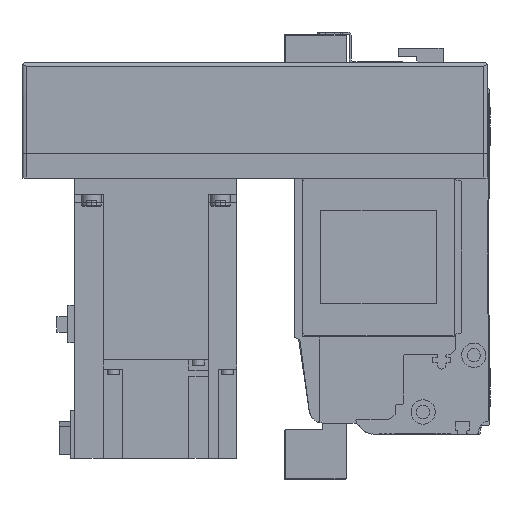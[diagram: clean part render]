
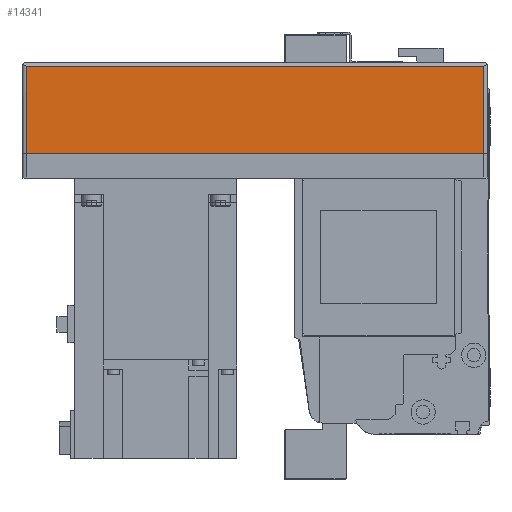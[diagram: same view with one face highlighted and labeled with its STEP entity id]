
A CAD part, left-side view. The second image highlights one B-rep face of the part: STEP entity #14341.
In plain terms, the highlighted planar face has unit normal (-1, 0, 0) as drawn and (0, 1, 0) by its records, which use the part's own axes.
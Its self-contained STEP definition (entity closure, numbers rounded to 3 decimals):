
#2582=ORIENTED_EDGE('',*,*,#5934,.F.);
#2583=ORIENTED_EDGE('',*,*,#5874,.T.);
#2584=ORIENTED_EDGE('',*,*,#5935,.F.);
#2585=ORIENTED_EDGE('',*,*,#5869,.F.);
#5869=EDGE_CURVE('',#7694,#7695,#9194,.T.);
#5874=EDGE_CURVE('',#7700,#7699,#9196,.T.);
#5934=EDGE_CURVE('',#7700,#7694,#9239,.T.);
#5935=EDGE_CURVE('',#7695,#7699,#9240,.T.);
#7694=VERTEX_POINT('',#22510);
#7695=VERTEX_POINT('',#22512);
#7699=VERTEX_POINT('',#22521);
#7700=VERTEX_POINT('',#22523);
#9194=LINE('',#22511,#10507);
#9196=LINE('',#22522,#10509);
#9239=LINE('',#22645,#10552);
#9240=LINE('',#22646,#10553);
#10507=VECTOR('',#17955,1000.);
#10509=VECTOR('',#17965,1000.);
#10552=VECTOR('',#18086,1000.);
#10553=VECTOR('',#18087,1000.);
#11660=EDGE_LOOP('',(#2582,#2583,#2584,#2585));
#12783=FACE_BOUND('',#11660,.T.);
#13738=PLANE('',#15422);
#14341=ADVANCED_FACE('',(#12783),#13738,.T.);
#15422=AXIS2_PLACEMENT_3D('',#22644,#18084,#18085);
#17955=DIRECTION('',(0.,0.,1.));
#17965=DIRECTION('',(0.,0.,1.));
#18084=DIRECTION('',(0.,1.,0.));
#18085=DIRECTION('',(0.,0.,1.));
#18086=DIRECTION('',(1.,0.,0.));
#18087=DIRECTION('',(-1.,0.,0.));
#22510=CARTESIAN_POINT('',(-2.,54.,-55.));
#22511=CARTESIAN_POINT('',(-2.,54.,-57.));
#22512=CARTESIAN_POINT('',(-2.,54.,-12.));
#22521=CARTESIAN_POINT('',(-228.,54.,-12.));
#22522=CARTESIAN_POINT('',(-228.,54.,-57.));
#22523=CARTESIAN_POINT('',(-228.,54.,-55.));
#22644=CARTESIAN_POINT('',(-2.,54.,-57.));
#22645=CARTESIAN_POINT('',(-230.,54.,-55.));
#22646=CARTESIAN_POINT('',(-2.,54.,-12.));
